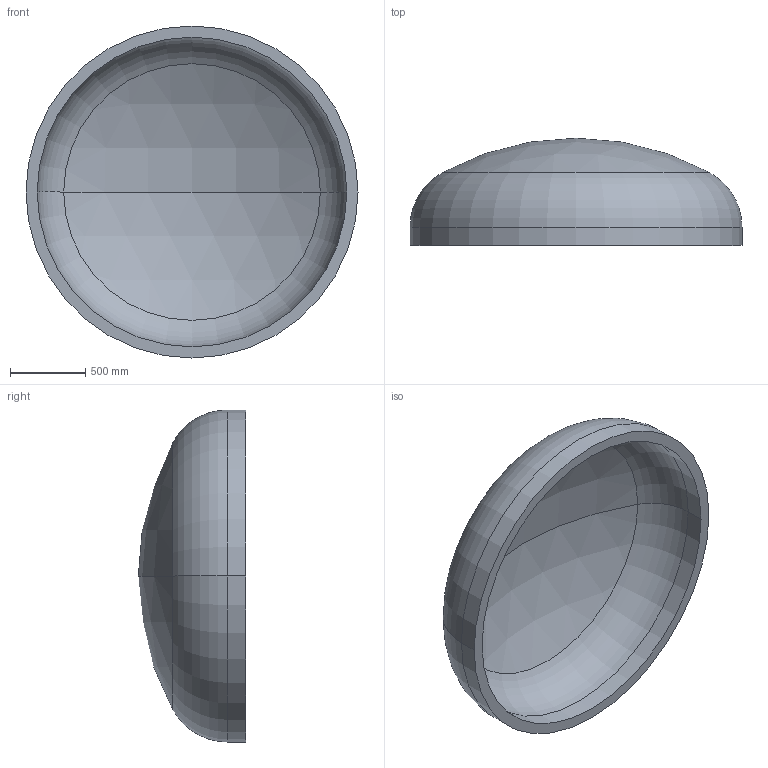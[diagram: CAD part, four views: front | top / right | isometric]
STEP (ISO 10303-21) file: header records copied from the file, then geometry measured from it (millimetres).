
FILE_DESCRIPTION (( 'STEP AP203' ), '1' );
FILE_NAME ('DIN 28013 Korbbogenform_-_Boden DIN 28013 - 2200 x 120 - I - s=74.step', '2016-07-01T14:47:00', ( '' ), ( '' ), 'SwSTEP 2.0', 'SolidWorks 2013', '' );
FILE_SCHEMA (( 'CONFIG_CONTROL_DESIGN' ));
Length unit declared in the file: millimetre
Products named in the file (1): DIN 28013 Korbbogenform_-_Boden DIN 28013 - 2200 x 120 - I - s=74
Bounding box: 2200 x 710.7 x 2200 mm (x, y, z)
Volume: 432469548.9 mm3; surface area: 12194079.5 mm2
Topology: 1 solids, 1 shells, 13 faces, 24 edges, 14 vertices
Faces by surface type: torus 4, cylinder 4, sphere 4, plane 1
Entity records: 407 total; most frequent: DIRECTION 72, CARTESIAN_POINT 52, ORIENTED_EDGE 48, AXIS2_PLACEMENT_3D 34, EDGE_CURVE 24, CIRCLE 20, VERTEX_POINT 14, EDGE_LOOP 14
